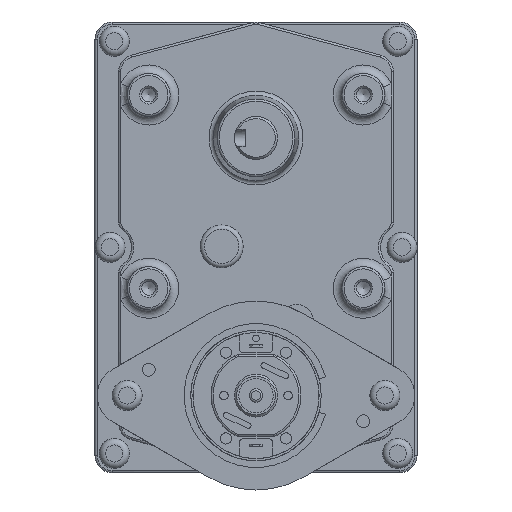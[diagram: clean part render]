
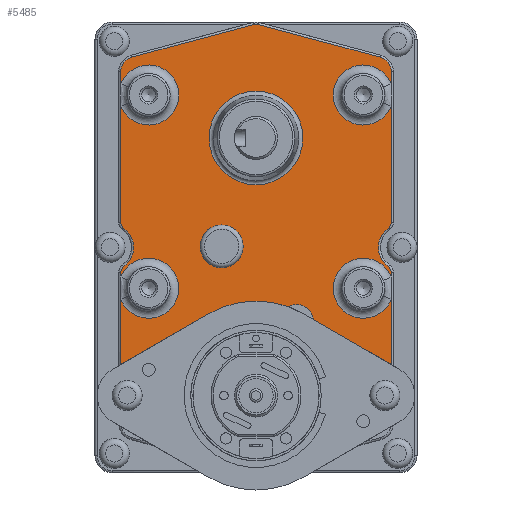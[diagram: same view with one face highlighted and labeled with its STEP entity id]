
A CAD part, front view. The second image highlights one B-rep face of the part: STEP entity #5485.
In plain terms, the highlighted planar face has unit normal (0, -1, 0).
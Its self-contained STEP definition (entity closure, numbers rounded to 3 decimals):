
#299=FACE_BOUND('',#859,.T.);
#300=FACE_BOUND('',#860,.T.);
#362=PLANE('',#5946);
#504=FACE_OUTER_BOUND('',#858,.T.);
#858=EDGE_LOOP('',(#3852,#3853,#3854,#3855,#3856,#3857,#3858,#3859,#3860,
#3861,#3862,#3863,#3864,#3865,#3866,#3867,#3868,#3869,#3870,#3871,#3872,
#3873,#3874,#3875,#3876,#3877,#3878));
#859=EDGE_LOOP('',(#3879));
#860=EDGE_LOOP('',(#3880));
#1270=LINE('',#8749,#1646);
#1271=LINE('',#8757,#1647);
#1272=LINE('',#8761,#1648);
#1273=LINE('',#8765,#1649);
#1274=LINE('',#8769,#1650);
#1275=LINE('',#8773,#1651);
#1276=LINE('',#8777,#1652);
#1277=LINE('',#8785,#1653);
#1278=LINE('',#8789,#1654);
#1279=LINE('',#8791,#1655);
#1280=LINE('',#8797,#1656);
#1281=LINE('',#8798,#1657);
#1646=VECTOR('',#6779,10.);
#1647=VECTOR('',#6786,10.);
#1648=VECTOR('',#6789,10.);
#1649=VECTOR('',#6792,10.);
#1650=VECTOR('',#6795,10.);
#1651=VECTOR('',#6798,10.);
#1652=VECTOR('',#6801,10.);
#1653=VECTOR('',#6808,10.);
#1654=VECTOR('',#6811,10.);
#1655=VECTOR('',#6812,10.);
#1656=VECTOR('',#6817,10.);
#1657=VECTOR('',#6818,10.);
#2021=CIRCLE('',#5942,10.909);
#2024=CIRCLE('',#5947,7.);
#2025=CIRCLE('',#5948,1.5);
#2026=CIRCLE('',#5949,5.5);
#2027=CIRCLE('',#5950,1.5);
#2028=CIRCLE('',#5951,7.);
#2029=CIRCLE('',#5952,3.5);
#2030=CIRCLE('',#5953,1.5);
#2031=CIRCLE('',#5954,3.5);
#2032=CIRCLE('',#5955,7.);
#2033=CIRCLE('',#5956,1.5);
#2034=CIRCLE('',#5957,5.5);
#2035=CIRCLE('',#5958,1.5);
#2036=CIRCLE('',#5959,7.);
#2037=CIRCLE('',#5960,22.);
#2038=CIRCLE('',#5961,4.);
#2039=CIRCLE('',#5962,5.);
#2453=VERTEX_POINT('',#8735);
#2456=VERTEX_POINT('',#8745);
#2457=VERTEX_POINT('',#8746);
#2458=VERTEX_POINT('',#8748);
#2459=VERTEX_POINT('',#8750);
#2460=VERTEX_POINT('',#8752);
#2461=VERTEX_POINT('',#8754);
#2462=VERTEX_POINT('',#8756);
#2463=VERTEX_POINT('',#8758);
#2464=VERTEX_POINT('',#8760);
#2465=VERTEX_POINT('',#8762);
#2466=VERTEX_POINT('',#8764);
#2467=VERTEX_POINT('',#8766);
#2468=VERTEX_POINT('',#8768);
#2469=VERTEX_POINT('',#8770);
#2470=VERTEX_POINT('',#8772);
#2471=VERTEX_POINT('',#8774);
#2472=VERTEX_POINT('',#8776);
#2473=VERTEX_POINT('',#8778);
#2474=VERTEX_POINT('',#8780);
#2475=VERTEX_POINT('',#8782);
#2476=VERTEX_POINT('',#8784);
#2477=VERTEX_POINT('',#8786);
#2478=VERTEX_POINT('',#8788);
#2479=VERTEX_POINT('',#8790);
#2480=VERTEX_POINT('',#8792);
#2481=VERTEX_POINT('',#8794);
#2482=VERTEX_POINT('',#8796);
#2483=VERTEX_POINT('',#8799);
#2995=EDGE_CURVE('',#2453,#2453,#2021,.T.);
#2999=EDGE_CURVE('',#2456,#2457,#2024,.T.);
#3000=EDGE_CURVE('',#2458,#2456,#1270,.T.);
#3001=EDGE_CURVE('',#2459,#2458,#2025,.T.);
#3002=EDGE_CURVE('',#2460,#2459,#2026,.T.);
#3003=EDGE_CURVE('',#2461,#2460,#2027,.T.);
#3004=EDGE_CURVE('',#2462,#2461,#1271,.T.);
#3005=EDGE_CURVE('',#2463,#2462,#2028,.T.);
#3006=EDGE_CURVE('',#2464,#2463,#1272,.T.);
#3007=EDGE_CURVE('',#2465,#2464,#2029,.T.);
#3008=EDGE_CURVE('',#2466,#2465,#1273,.T.);
#3009=EDGE_CURVE('',#2467,#2466,#2030,.T.);
#3010=EDGE_CURVE('',#2468,#2467,#1274,.T.);
#3011=EDGE_CURVE('',#2469,#2468,#2031,.T.);
#3012=EDGE_CURVE('',#2470,#2469,#1275,.T.);
#3013=EDGE_CURVE('',#2471,#2470,#2032,.T.);
#3014=EDGE_CURVE('',#2472,#2471,#1276,.T.);
#3015=EDGE_CURVE('',#2473,#2472,#2033,.T.);
#3016=EDGE_CURVE('',#2474,#2473,#2034,.T.);
#3017=EDGE_CURVE('',#2475,#2474,#2035,.T.);
#3018=EDGE_CURVE('',#2476,#2475,#1277,.T.);
#3019=EDGE_CURVE('',#2477,#2476,#2036,.T.);
#3020=EDGE_CURVE('',#2478,#2477,#1278,.T.);
#3021=EDGE_CURVE('',#2478,#2479,#1279,.T.);
#3022=EDGE_CURVE('',#2479,#2480,#2037,.T.);
#3023=EDGE_CURVE('',#2480,#2481,#2038,.T.);
#3024=EDGE_CURVE('',#2481,#2482,#1280,.T.);
#3025=EDGE_CURVE('',#2457,#2482,#1281,.T.);
#3026=EDGE_CURVE('',#2483,#2483,#2039,.T.);
#3852=ORIENTED_EDGE('',*,*,#2999,.F.);
#3853=ORIENTED_EDGE('',*,*,#3000,.F.);
#3854=ORIENTED_EDGE('',*,*,#3001,.F.);
#3855=ORIENTED_EDGE('',*,*,#3002,.F.);
#3856=ORIENTED_EDGE('',*,*,#3003,.F.);
#3857=ORIENTED_EDGE('',*,*,#3004,.F.);
#3858=ORIENTED_EDGE('',*,*,#3005,.F.);
#3859=ORIENTED_EDGE('',*,*,#3006,.F.);
#3860=ORIENTED_EDGE('',*,*,#3007,.F.);
#3861=ORIENTED_EDGE('',*,*,#3008,.F.);
#3862=ORIENTED_EDGE('',*,*,#3009,.F.);
#3863=ORIENTED_EDGE('',*,*,#3010,.F.);
#3864=ORIENTED_EDGE('',*,*,#3011,.F.);
#3865=ORIENTED_EDGE('',*,*,#3012,.F.);
#3866=ORIENTED_EDGE('',*,*,#3013,.F.);
#3867=ORIENTED_EDGE('',*,*,#3014,.F.);
#3868=ORIENTED_EDGE('',*,*,#3015,.F.);
#3869=ORIENTED_EDGE('',*,*,#3016,.F.);
#3870=ORIENTED_EDGE('',*,*,#3017,.F.);
#3871=ORIENTED_EDGE('',*,*,#3018,.F.);
#3872=ORIENTED_EDGE('',*,*,#3019,.F.);
#3873=ORIENTED_EDGE('',*,*,#3020,.F.);
#3874=ORIENTED_EDGE('',*,*,#3021,.T.);
#3875=ORIENTED_EDGE('',*,*,#3022,.T.);
#3876=ORIENTED_EDGE('',*,*,#3023,.T.);
#3877=ORIENTED_EDGE('',*,*,#3024,.T.);
#3878=ORIENTED_EDGE('',*,*,#3025,.F.);
#3879=ORIENTED_EDGE('',*,*,#3026,.T.);
#3880=ORIENTED_EDGE('',*,*,#2995,.F.);
#5485=ADVANCED_FACE('',(#504,#299,#300),#362,.F.);
#5942=AXIS2_PLACEMENT_3D('',#8737,#6766,#6767);
#5946=AXIS2_PLACEMENT_3D('',#8744,#6775,#6776);
#5947=AXIS2_PLACEMENT_3D('',#8747,#6777,#6778);
#5948=AXIS2_PLACEMENT_3D('',#8751,#6780,#6781);
#5949=AXIS2_PLACEMENT_3D('',#8753,#6782,#6783);
#5950=AXIS2_PLACEMENT_3D('',#8755,#6784,#6785);
#5951=AXIS2_PLACEMENT_3D('',#8759,#6787,#6788);
#5952=AXIS2_PLACEMENT_3D('',#8763,#6790,#6791);
#5953=AXIS2_PLACEMENT_3D('',#8767,#6793,#6794);
#5954=AXIS2_PLACEMENT_3D('',#8771,#6796,#6797);
#5955=AXIS2_PLACEMENT_3D('',#8775,#6799,#6800);
#5956=AXIS2_PLACEMENT_3D('',#8779,#6802,#6803);
#5957=AXIS2_PLACEMENT_3D('',#8781,#6804,#6805);
#5958=AXIS2_PLACEMENT_3D('',#8783,#6806,#6807);
#5959=AXIS2_PLACEMENT_3D('',#8787,#6809,#6810);
#5960=AXIS2_PLACEMENT_3D('',#8793,#6813,#6814);
#5961=AXIS2_PLACEMENT_3D('',#8795,#6815,#6816);
#5962=AXIS2_PLACEMENT_3D('',#8800,#6819,#6820);
#6766=DIRECTION('center_axis',(0.,-1.,0.));
#6767=DIRECTION('ref_axis',(1.,0.,0.));
#6775=DIRECTION('center_axis',(0.,1.,0.));
#6776=DIRECTION('ref_axis',(0.,0.,1.));
#6777=DIRECTION('center_axis',(0.,-1.,0.));
#6778=DIRECTION('ref_axis',(-1.,0.,0.));
#6779=DIRECTION('',(0.,0.,-1.));
#6780=DIRECTION('center_axis',(0.,1.,0.));
#6781=DIRECTION('ref_axis',(0.886,0.,0.463));
#6782=DIRECTION('center_axis',(0.,-1.,0.));
#6783=DIRECTION('ref_axis',(-1.,0.,0.));
#6784=DIRECTION('center_axis',(0.,1.,0.));
#6785=DIRECTION('ref_axis',(0.886,0.,-0.463));
#6786=DIRECTION('',(0.,0.,-1.));
#6787=DIRECTION('center_axis',(0.,-1.,0.));
#6788=DIRECTION('ref_axis',(-1.,0.,0.));
#6789=DIRECTION('',(0.,0.,-1.));
#6790=DIRECTION('center_axis',(0.,1.,0.));
#6791=DIRECTION('ref_axis',(0.793,0.,0.609));
#6792=DIRECTION('',(0.966,0.,-0.259));
#6793=DIRECTION('center_axis',(0.,1.,0.));
#6794=DIRECTION('ref_axis',(0.,0.,1.));
#6795=DIRECTION('',(0.966,0.,0.259));
#6796=DIRECTION('center_axis',(0.,1.,0.));
#6797=DIRECTION('ref_axis',(-0.793,0.,0.609));
#6798=DIRECTION('',(0.,0.,1.));
#6799=DIRECTION('center_axis',(0.,-1.,0.));
#6800=DIRECTION('ref_axis',(-1.,0.,0.));
#6801=DIRECTION('',(0.,0.,1.));
#6802=DIRECTION('center_axis',(0.,1.,0.));
#6803=DIRECTION('ref_axis',(-0.886,0.,-0.463));
#6804=DIRECTION('center_axis',(0.,-1.,0.));
#6805=DIRECTION('ref_axis',(1.,0.,0.));
#6806=DIRECTION('center_axis',(0.,1.,0.));
#6807=DIRECTION('ref_axis',(-0.886,0.,0.463));
#6808=DIRECTION('',(0.,0.,1.));
#6809=DIRECTION('center_axis',(0.,-1.,0.));
#6810=DIRECTION('ref_axis',(-1.,0.,0.));
#6811=DIRECTION('',(0.,0.,1.));
#6812=DIRECTION('',(0.866,0.,0.5));
#6813=DIRECTION('center_axis',(0.,1.,0.));
#6814=DIRECTION('ref_axis',(1.,0.,0.));
#6815=DIRECTION('center_axis',(0.,1.,0.));
#6816=DIRECTION('ref_axis',(-1.,0.,0.));
#6817=DIRECTION('',(0.866,0.,-0.5));
#6818=DIRECTION('',(0.,0.,-1.));
#6819=DIRECTION('center_axis',(0.,1.,0.));
#6820=DIRECTION('ref_axis',(-1.,0.,0.));
#8735=CARTESIAN_POINT('',(0.,-35.,-10.909));
#8737=CARTESIAN_POINT('Origin',(0.,-35.,0.));
#8744=CARTESIAN_POINT('Origin',(0.,-35.,-25.5));
#8745=CARTESIAN_POINT('',(31.5,-35.,-32.402));
#8746=CARTESIAN_POINT('',(31.5,-35.,-37.598));
#8747=CARTESIAN_POINT('Origin',(25.,-35.,-35.));
#8748=CARTESIAN_POINT('',(31.5,-35.,-31.245));
#8749=CARTESIAN_POINT('',(31.5,-35.,-45.963));
#8750=CARTESIAN_POINT('',(30.857,-35.,-30.014));
#8751=CARTESIAN_POINT('Origin',(30.,-35.,-31.245));
#8752=CARTESIAN_POINT('',(30.857,-35.,-20.986));
#8753=CARTESIAN_POINT('Origin',(34.,-35.,-25.5));
#8754=CARTESIAN_POINT('',(31.5,-35.,-19.755));
#8755=CARTESIAN_POINT('Origin',(30.,-35.,-19.755));
#8756=CARTESIAN_POINT('',(31.5,-35.,7.402));
#8757=CARTESIAN_POINT('',(31.5,-35.,-45.963));
#8758=CARTESIAN_POINT('',(31.5,-35.,12.598));
#8759=CARTESIAN_POINT('Origin',(25.,-35.,10.));
#8760=CARTESIAN_POINT('',(31.5,-35.,15.427));
#8761=CARTESIAN_POINT('',(31.5,-35.,-45.963));
#8762=CARTESIAN_POINT('',(28.906,-35.,18.808));
#8763=CARTESIAN_POINT('Origin',(28.,-35.,15.427));
#8764=CARTESIAN_POINT('',(0.388,-35.,26.449));
#8765=CARTESIAN_POINT('',(20.96,-35.,20.937));
#8766=CARTESIAN_POINT('',(-0.388,-35.,26.449));
#8767=CARTESIAN_POINT('Origin',(0.,-35.,25.));
#8768=CARTESIAN_POINT('',(-28.906,-35.,18.808));
#8769=CARTESIAN_POINT('',(-6.701,-35.,24.757));
#8770=CARTESIAN_POINT('',(-31.5,-35.,15.427));
#8771=CARTESIAN_POINT('Origin',(-28.,-35.,15.427));
#8772=CARTESIAN_POINT('',(-31.5,-35.,12.598));
#8773=CARTESIAN_POINT('',(-31.5,-35.,-5.037));
#8774=CARTESIAN_POINT('',(-31.5,-35.,7.402));
#8775=CARTESIAN_POINT('Origin',(-25.,-35.,10.));
#8776=CARTESIAN_POINT('',(-31.5,-35.,-19.755));
#8777=CARTESIAN_POINT('',(-31.5,-35.,-5.037));
#8778=CARTESIAN_POINT('',(-30.857,-35.,-20.986));
#8779=CARTESIAN_POINT('Origin',(-30.,-35.,-19.755));
#8780=CARTESIAN_POINT('',(-30.857,-35.,-30.014));
#8781=CARTESIAN_POINT('Origin',(-34.,-35.,-25.5));
#8782=CARTESIAN_POINT('',(-31.5,-35.,-31.245));
#8783=CARTESIAN_POINT('Origin',(-30.,-35.,-31.245));
#8784=CARTESIAN_POINT('',(-31.5,-35.,-32.402));
#8785=CARTESIAN_POINT('',(-31.5,-35.,-5.037));
#8786=CARTESIAN_POINT('',(-31.5,-35.,-37.598));
#8787=CARTESIAN_POINT('Origin',(-25.,-35.,-35.));
#8788=CARTESIAN_POINT('',(-31.5,-35.,-52.783));
#8789=CARTESIAN_POINT('',(-31.5,-35.,-5.037));
#8790=CARTESIAN_POINT('',(-11.,-35.,-40.947));
#8791=CARTESIAN_POINT('',(-3.531,-35.,-36.635));
#8792=CARTESIAN_POINT('',(7.452,-35.,-39.301));
#8793=CARTESIAN_POINT('Origin',(0.,-35.,-60.));
#8794=CARTESIAN_POINT('',(13.372,-35.,-42.317));
#8795=CARTESIAN_POINT('Origin',(9.401,-35.,-42.794));
#8796=CARTESIAN_POINT('',(31.5,-35.,-52.783));
#8797=CARTESIAN_POINT('',(14.781,-35.,-43.13));
#8798=CARTESIAN_POINT('',(31.5,-35.,-45.963));
#8799=CARTESIAN_POINT('',(-3.,-35.,-25.264));
#8800=CARTESIAN_POINT('Origin',(-8.,-35.,-25.264));
